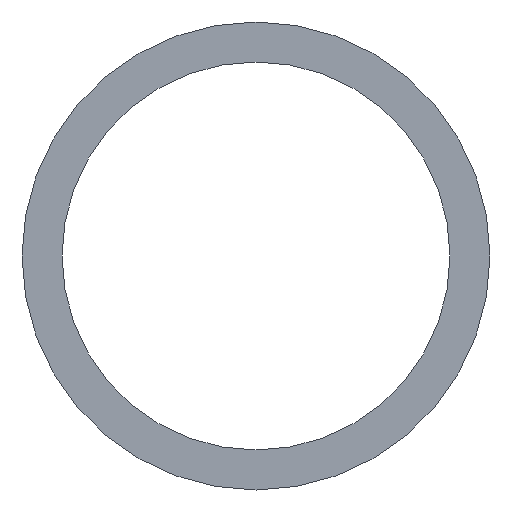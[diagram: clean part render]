
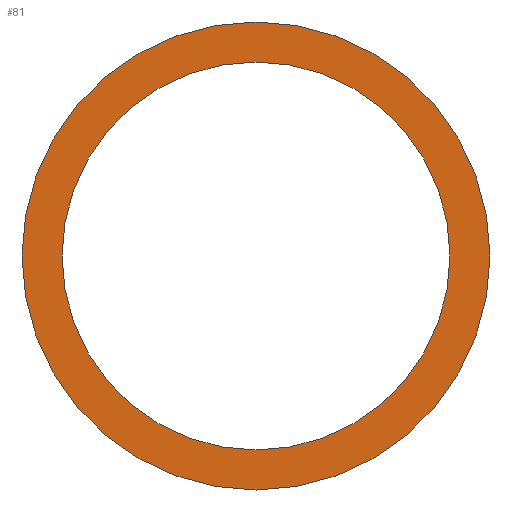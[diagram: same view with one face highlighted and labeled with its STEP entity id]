
A CAD part, front view. The second image highlights one B-rep face of the part: STEP entity #81.
In plain terms, the highlighted planar face has unit normal (0, -1, 0).
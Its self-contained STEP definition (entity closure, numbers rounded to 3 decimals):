
#3 = ORIENTED_EDGE ( 'NONE', *, *, #118, .F. ) ;
#24 = FACE_OUTER_BOUND ( 'NONE', #86, .T. ) ;
#27 = AXIS2_PLACEMENT_3D ( 'NONE', #42, #193, #94 ) ;
#30 = CARTESIAN_POINT ( 'NONE',  ( 6905., 1955., 2984.7 ) ) ;
#32 = AXIS2_PLACEMENT_3D ( 'NONE', #154, #139, #112 ) ;
#36 = VERTEX_POINT ( 'NONE', #106 ) ;
#38 = DIRECTION ( 'NONE',  ( 0., -1., 0. ) ) ;
#39 = ORIENTED_EDGE ( 'NONE', *, *, #120, .F. ) ;
#42 = CARTESIAN_POINT ( 'NONE',  ( 6905., 1955., 2995.85 ) ) ;
#59 = CARTESIAN_POINT ( 'NONE',  ( 6905., 1955., 2995.85 ) ) ;
#61 = CARTESIAN_POINT ( 'NONE',  ( 6905., 1955., 2982.4 ) ) ;
#62 = DIRECTION ( 'NONE',  ( 0., 0., -1. ) ) ;
#71 = VERTEX_POINT ( 'NONE', #104 ) ;
#72 = CIRCLE ( 'NONE', #202, 11.15 ) ;
#80 = CARTESIAN_POINT ( 'NONE',  ( 6905., 1955., 2995.85 ) ) ;
#81 = ADVANCED_FACE ( 'NONE', ( #167, #24 ), #137, .T. ) ;
#82 = AXIS2_PLACEMENT_3D ( 'NONE', #184, #38, #170 ) ;
#86 = EDGE_LOOP ( 'NONE', ( #205, #117 ) ) ;
#94 = DIRECTION ( 'NONE',  ( 0., 0., -1. ) ) ;
#104 = CARTESIAN_POINT ( 'NONE',  ( 6905., 1955., 3009.3 ) ) ;
#106 = CARTESIAN_POINT ( 'NONE',  ( 6905., 1955., 3007. ) ) ;
#112 = DIRECTION ( 'NONE',  ( 0., 0., -1. ) ) ;
#113 = CIRCLE ( 'NONE', #27, 13.45 ) ;
#116 = CIRCLE ( 'NONE', #198, 11.15 ) ;
#117 = ORIENTED_EDGE ( 'NONE', *, *, #190, .T. ) ;
#118 = EDGE_CURVE ( 'NONE', #201, #36, #116, .T. ) ;
#120 = EDGE_CURVE ( 'NONE', #36, #201, #72, .T. ) ;
#135 = EDGE_LOOP ( 'NONE', ( #39, #3 ) ) ;
#137 = PLANE ( 'NONE',  #82 ) ;
#139 = DIRECTION ( 'NONE',  ( 0., -1., 0. ) ) ;
#141 = DIRECTION ( 'NONE',  ( 0., -1., 0. ) ) ;
#154 = CARTESIAN_POINT ( 'NONE',  ( 6905., 1955., 2995.85 ) ) ;
#157 = CIRCLE ( 'NONE', #32, 13.45 ) ;
#162 = VERTEX_POINT ( 'NONE', #61 ) ;
#167 = FACE_BOUND ( 'NONE', #135, .T. ) ;
#170 = DIRECTION ( 'NONE',  ( 0., 0., -1. ) ) ;
#173 = DIRECTION ( 'NONE',  ( 0., -1., 0. ) ) ;
#184 = CARTESIAN_POINT ( 'NONE',  ( 6905., 1955., 2995.85 ) ) ;
#190 = EDGE_CURVE ( 'NONE', #162, #71, #113, .T. ) ;
#191 = DIRECTION ( 'NONE',  ( 0., 0., -1. ) ) ;
#193 = DIRECTION ( 'NONE',  ( 0., -1., 0. ) ) ;
#198 = AXIS2_PLACEMENT_3D ( 'NONE', #59, #173, #62 ) ;
#201 = VERTEX_POINT ( 'NONE', #30 ) ;
#202 = AXIS2_PLACEMENT_3D ( 'NONE', #80, #141, #191 ) ;
#203 = EDGE_CURVE ( 'NONE', #71, #162, #157, .T. ) ;
#205 = ORIENTED_EDGE ( 'NONE', *, *, #203, .T. ) ;
